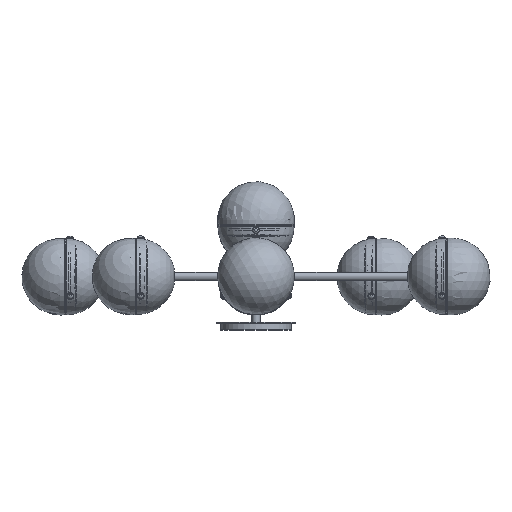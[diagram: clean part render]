
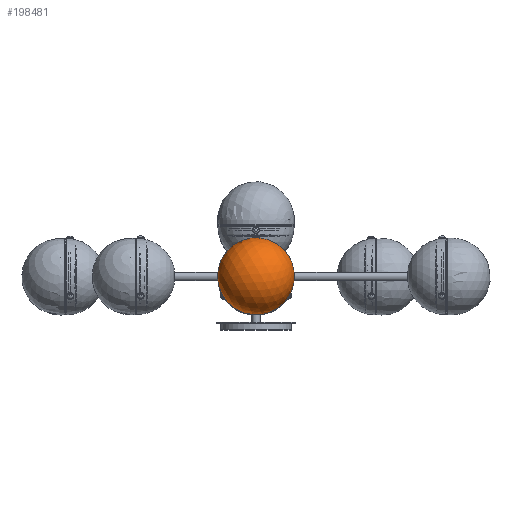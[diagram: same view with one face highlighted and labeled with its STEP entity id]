
A CAD part, top view. The second image highlights one B-rep face of the part: STEP entity #198481.
In plain terms, the highlighted spherical face has radius 60 mm.
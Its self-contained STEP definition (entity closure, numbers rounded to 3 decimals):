
#850=SPHERICAL_SURFACE('',#214330,60.);
#956=FACE_BOUND('',#71993,.T.);
#59736=FACE_OUTER_BOUND('',#71992,.T.);
#71992=EDGE_LOOP('',(#160125,#160126));
#71993=EDGE_LOOP('',(#160127));
#78873=CIRCLE('',#214329,59.537);
#78874=CIRCLE('',#214331,60.);
#91631=VERTEX_POINT('',#317190);
#91632=VERTEX_POINT('',#317194);
#91633=VERTEX_POINT('',#317195);
#115598=EDGE_CURVE('',#91631,#91631,#78873,.T.);
#115599=EDGE_CURVE('',#91632,#91633,#78874,.T.);
#160125=ORIENTED_EDGE('',*,*,#115599,.T.);
#160126=ORIENTED_EDGE('',*,*,#115599,.F.);
#160127=ORIENTED_EDGE('',*,*,#115598,.F.);
#198481=ADVANCED_FACE('',(#59736,#956),#850,.T.);
#214329=AXIS2_PLACEMENT_3D('',#317192,#254244,#254245);
#214330=AXIS2_PLACEMENT_3D('',#317193,#254246,#254247);
#214331=AXIS2_PLACEMENT_3D('',#317196,#254248,#254249);
#254244=DIRECTION('center_axis',(0.,0.,
-1.));
#254245=DIRECTION('ref_axis',(0.5,-0.866,0.));
#254246=DIRECTION('center_axis',(0.866,0.5,0.));
#254247=DIRECTION('ref_axis',(-0.5,0.866,0.));
#254248=DIRECTION('center_axis',(0.,0.,
-1.));
#254249=DIRECTION('ref_axis',(0.5,-0.866,0.));
#317190=CARTESIAN_POINT('',(51.56,29.768,884.75));
#317192=CARTESIAN_POINT('Origin',(0.,0.,
884.75));
#317193=CARTESIAN_POINT('Origin',(0.,0.,
892.191));
#317194=CARTESIAN_POINT('',(51.962,30.,892.191));
#317195=CARTESIAN_POINT('',(-51.962,-30.,892.191));
#317196=CARTESIAN_POINT('Origin',(0.,0.,
892.191));
